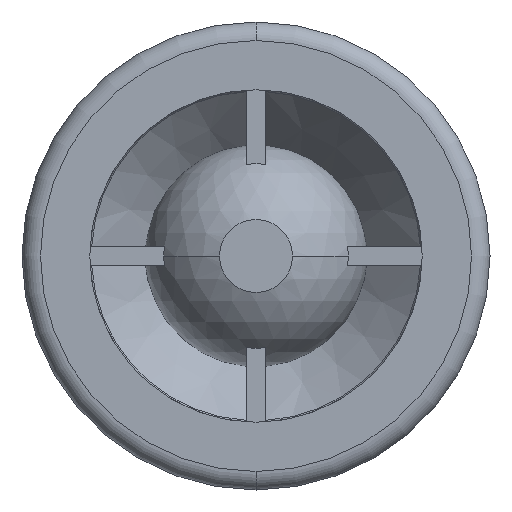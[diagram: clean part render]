
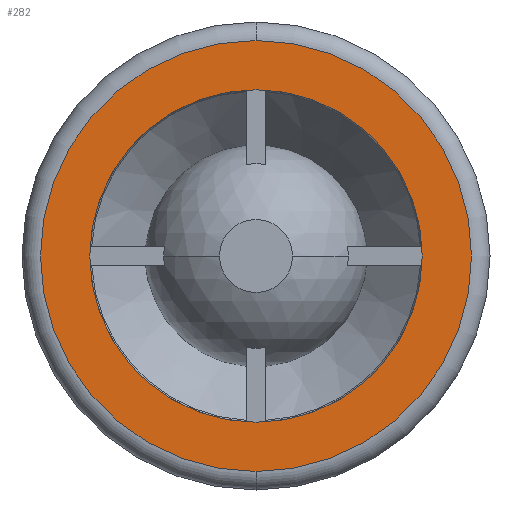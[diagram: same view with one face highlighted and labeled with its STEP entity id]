
A CAD part, front view. The second image highlights one B-rep face of the part: STEP entity #282.
In plain terms, the highlighted planar face has unit normal (0, -1, 0).
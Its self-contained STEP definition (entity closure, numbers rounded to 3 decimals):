
#33 = VERTEX_POINT ( 'NONE', #392 ) ;
#34 = VERTEX_POINT ( 'NONE', #381 ) ;
#77 = EDGE_CURVE ( 'NONE', #33, #34, #494, .T. ) ;
#164 = EDGE_CURVE ( 'NONE', #1600, #1559, #684, .T. ) ;
#282 = ADVANCED_FACE ( 'NONE', ( #850, #849 ), #848, .F. ) ;
#283 = ORIENTED_EDGE ( 'NONE', *, *, #1599, .F. ) ;
#284 = EDGE_LOOP ( 'NONE', ( #291, #286 ) ) ;
#285 = EDGE_LOOP ( 'NONE', ( #297, #283 ) ) ;
#286 = ORIENTED_EDGE ( 'NONE', *, *, #77, .T. ) ;
#287 = EDGE_CURVE ( 'NONE', #34, #33, #911, .T. ) ;
#291 = ORIENTED_EDGE ( 'NONE', *, *, #287, .T. ) ;
#297 = ORIENTED_EDGE ( 'NONE', *, *, #164, .F. ) ;
#381 = CARTESIAN_POINT ( 'NONE',  ( 0., 0., 17.5 ) ) ;
#392 = CARTESIAN_POINT ( 'NONE',  ( 0., 0., -17.5 ) ) ;
#454 = CARTESIAN_POINT ( 'NONE',  ( 0., 0., 0. ) ) ;
#491 = DIRECTION ( 'NONE',  ( 0., 0., 1. ) ) ;
#492 = DIRECTION ( 'NONE',  ( 0., -1., 0. ) ) ;
#493 = AXIS2_PLACEMENT_3D ( 'NONE', #454, #492, #491 ) ;
#494 = CIRCLE ( 'NONE', #493, 17.5 ) ;
#652 = DIRECTION ( 'NONE',  ( 0., -1., 0. ) ) ;
#653 = CARTESIAN_POINT ( 'NONE',  ( 0., 0., 0. ) ) ;
#654 = AXIS2_PLACEMENT_3D ( 'NONE', #653, #652, #669 ) ;
#669 = DIRECTION ( 'NONE',  ( 0., 0., -1. ) ) ;
#684 = CIRCLE ( 'NONE', #654, 13.5 ) ;
#847 = DIRECTION ( 'NONE',  ( 0., 1., 0. ) ) ;
#848 = PLANE ( 'NONE',  #915 ) ;
#849 = FACE_BOUND ( 'NONE', #285, .T. ) ;
#850 = FACE_OUTER_BOUND ( 'NONE', #284, .T. ) ;
#908 = DIRECTION ( 'NONE',  ( 0., 0., 1. ) ) ;
#909 = DIRECTION ( 'NONE',  ( 0., -1., 0. ) ) ;
#910 = AXIS2_PLACEMENT_3D ( 'NONE', #913, #909, #908 ) ;
#911 = CIRCLE ( 'NONE', #910, 17.5 ) ;
#912 = DIRECTION ( 'NONE',  ( 0., 0., 1. ) ) ;
#913 = CARTESIAN_POINT ( 'NONE',  ( 0., 0., 0. ) ) ;
#914 = CARTESIAN_POINT ( 'NONE',  ( -13.5, 0., 0. ) ) ;
#915 = AXIS2_PLACEMENT_3D ( 'NONE', #914, #847, #912 ) ;
#1559 = VERTEX_POINT ( 'NONE', #2358 ) ;
#1599 = EDGE_CURVE ( 'NONE', #1559, #1600, #2407, .T. ) ;
#1600 = VERTEX_POINT ( 'NONE', #2340 ) ;
#2340 = CARTESIAN_POINT ( 'NONE',  ( 0., 0., -13.5 ) ) ;
#2341 = DIRECTION ( 'NONE',  ( 0., 0., -1. ) ) ;
#2342 = DIRECTION ( 'NONE',  ( 0., -1., 0. ) ) ;
#2343 = CARTESIAN_POINT ( 'NONE',  ( 0., 0., 0. ) ) ;
#2344 = AXIS2_PLACEMENT_3D ( 'NONE', #2343, #2342, #2341 ) ;
#2358 = CARTESIAN_POINT ( 'NONE',  ( 0., 0., 13.5 ) ) ;
#2407 = CIRCLE ( 'NONE', #2344, 13.5 ) ;
